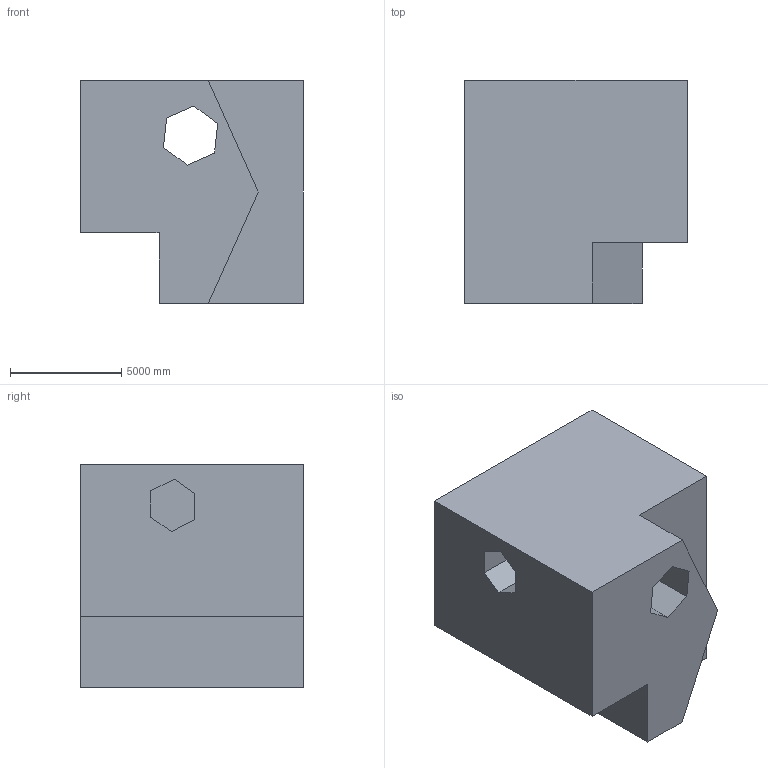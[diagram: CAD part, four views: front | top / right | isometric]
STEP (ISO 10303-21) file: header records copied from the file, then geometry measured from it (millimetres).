
FILE_DESCRIPTION (( 'STEP AP203' ), '1' );
FILE_NAME ('74.STEP', '2022-08-31T11:24:59', ( 'user' ), ( '' ), 'SwSTEP 2.0', 'SolidWorks 2021', '' );
FILE_SCHEMA (( 'CONFIG_CONTROL_DESIGN' ));
Length unit declared in the file: centimetre
Products named in the file (1): 74
Bounding box: 10000 x 10000 x 10000 mm (x, y, z)
Volume: 747152993811.7 mm3; surface area: 645849822.7 mm2
Topology: 1 solids, 1 shells, 24 faces, 63 edges, 42 vertices
Faces by surface type: plane 24
Entity records: 808 total; most frequent: CARTESIAN_POINT 130, ORIENTED_EDGE 126, DIRECTION 113, EDGE_CURVE 63, VECTOR 63, LINE 63, VERTEX_POINT 42, EDGE_LOOP 27
